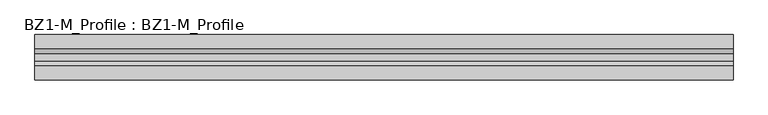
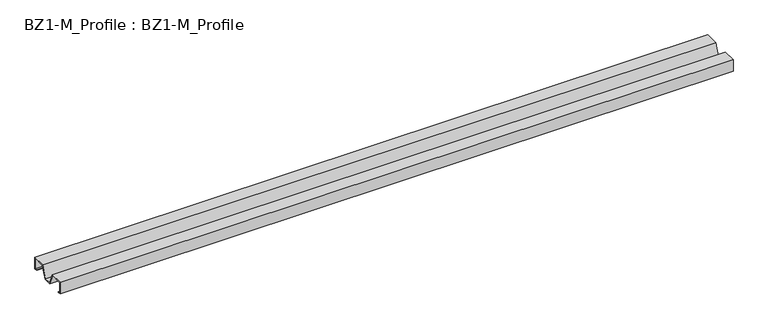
"""IFC4 building model written with IfcOpenShell, lengths in millimetres: beam geometry, BZ1-M_Profile : BZ1-M_Profile."""

from ifc_helpers import new_model, si_unit, frame, origin, place, context, project, spatial, polyline, outline, extrude, source, transform, mapped, element, save


def bz1_m_profile_bz1_m_profile_bcb5b955(model_context):
    return source(origin(), model_context, "Body", "SweptSolid", [
        extrude(outline(polyline([(45.0, 25.0), (45.0, 0.0), (39.0, 0.0), (39.0, 1.0), (44.0, 1.0), (44.0, 24.0), (18.3051526, 24.0), (8.117757, 0.0), (-8.117757, 0.0), (-18.3051526, 24.0), (-44.0, 24.0), (-44.0, 1.0), (-39.0, 1.0), (-39.0, 0.0), (-45.0, 0.0), (-45.0, 25.0), (-17.643267, 25.0), (-7.4558714, 1.0), (7.4558714, 1.0), (17.643267, 25.0), (45.0, 25.0)])), frame((-692.5, 0.0, 0.0), z_axis=(1.0, 0.0, 0.0), x_axis=(0.0, 1.0, 0.0)), (0.0, 0.0, 1.0), 1385.0),
    ])


if __name__ == "__main__":
    model = new_model("IFC4")
    model_context = context("Model", 3, world=origin())
    ifc_project = project(units=[si_unit("LENGTHUNIT", "METRE", prefix="MILLI")], contexts=[model_context])
    site = spatial("IfcSite", under=ifc_project)
    building = spatial("IfcBuilding", under=site)
    placement = place(None, origin())
    bz1_m_profile_bz1_m_profile_shape = bz1_m_profile_bz1_m_profile_bcb5b955(model_context)
    element("IfcBeam", 1, ObjectType="BZ1-M_Profile : BZ1-M_Profile", at=placement, inside=building, context=model_context, shape_type="MappedRepresentation", body=[
        mapped(bz1_m_profile_bz1_m_profile_shape, transform((0.0, 0.0, 0.0), x_axis=(1.0, 0.0, 0.0), y_axis=(0.0, 1.0, 0.0), z_axis=(0.0, 0.0, 1.0))),
    ])
    save(model, "model.ifc")
